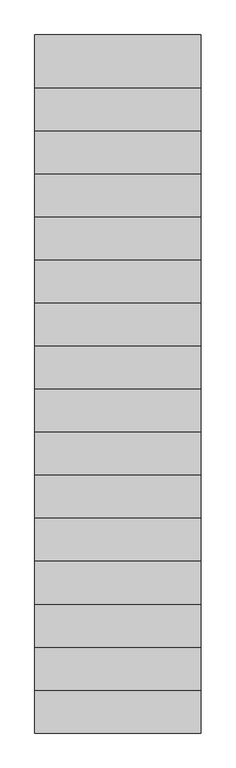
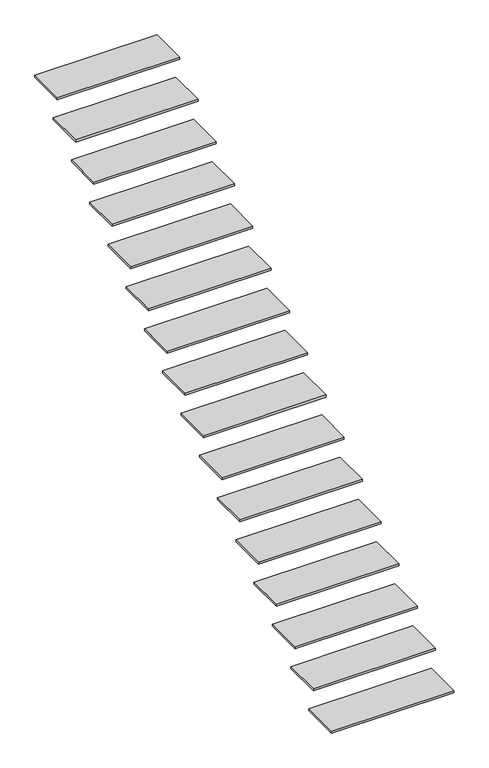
"""IFC4 building model written with IfcOpenShell, lengths in millimetres: stair flight geometry, 24_STR_trede_staal_gegalvaniseerd_rooster_15_neus_50."""

from ifc_helpers import new_model, si_unit, frame, origin, place, context, project, spatial, polyline, outline, extrude, source, transform, mapped, element, save


def stair_flight_6bf14399(model_context):
    return source(origin(), model_context, "Body", "SweptSolid", [
        extrude(outline(polyline([(27349.8089026, -25054.6322236), (28199.8089026, -25054.6322236), (28199.8089026, -25324.6322236), (27349.8089026, -25324.6322236), (27349.8089026, -25054.6322236)])), frame((0.0, 0.0, 161.4705882), z_axis=(0.0, 0.0, 1.0), x_axis=(1.0, 0.0, 0.0)), (0.0, 0.0, 1.0), 15.0),
        extrude(outline(polyline([(27349.8089026, -24834.6322236), (28199.8089026, -24834.6322236), (28199.8089026, -25104.6322236), (27349.8089026, -25104.6322236), (27349.8089026, -24834.6322236)])), frame((0.0, 0.0, 337.9411765), z_axis=(0.0, 0.0, 1.0), x_axis=(1.0, 0.0, 0.0)), (0.0, 0.0, 1.0), 15.0),
        extrude(outline(polyline([(27349.8089026, -24614.6322236), (28199.8089026, -24614.6322236), (28199.8089026, -24884.6322236), (27349.8089026, -24884.6322236), (27349.8089026, -24614.6322236)])), frame((0.0, 0.0, 514.4117647), z_axis=(0.0, 0.0, 1.0), x_axis=(1.0, 0.0, 0.0)), (0.0, 0.0, 1.0), 15.0),
        extrude(outline(polyline([(27349.8089026, -24394.6322236), (28199.8089026, -24394.6322236), (28199.8089026, -24664.6322236), (27349.8089026, -24664.6322236), (27349.8089026, -24394.6322236)])), frame((0.0, 0.0, 690.8823529), z_axis=(0.0, 0.0, 1.0), x_axis=(1.0, 0.0, 0.0)), (0.0, 0.0, 1.0), 15.0),
        extrude(outline(polyline([(27349.8089026, -24174.6322236), (28199.8089026, -24174.6322236), (28199.8089026, -24444.6322236), (27349.8089026, -24444.6322236), (27349.8089026, -24174.6322236)])), frame((0.0, 0.0, 867.3529412), z_axis=(0.0, 0.0, 1.0), x_axis=(1.0, 0.0, 0.0)), (0.0, 0.0, 1.0), 15.0),
        extrude(outline(polyline([(27349.8089026, -23954.6322236), (28199.8089026, -23954.6322236), (28199.8089026, -24224.6322236), (27349.8089026, -24224.6322236), (27349.8089026, -23954.6322236)])), frame((0.0, 0.0, 1043.8235294), z_axis=(0.0, 0.0, 1.0), x_axis=(1.0, 0.0, 0.0)), (0.0, 0.0, 1.0), 15.0),
        extrude(outline(polyline([(27349.8089026, -23734.6322236), (28199.8089026, -23734.6322236), (28199.8089026, -24004.6322236), (27349.8089026, -24004.6322236), (27349.8089026, -23734.6322236)])), frame((0.0, 0.0, 1220.2941176), z_axis=(0.0, 0.0, 1.0), x_axis=(1.0, 0.0, 0.0)), (0.0, 0.0, 1.0), 15.0),
        extrude(outline(polyline([(27349.8089026, -23514.6322236), (28199.8089026, -23514.6322236), (28199.8089026, -23784.6322236), (27349.8089026, -23784.6322236), (27349.8089026, -23514.6322236)])), frame((0.0, 0.0, 1396.7647059), z_axis=(0.0, 0.0, 1.0), x_axis=(1.0, 0.0, 0.0)), (0.0, 0.0, 1.0), 15.0),
        extrude(outline(polyline([(27349.8089026, -23294.6322236), (28199.8089026, -23294.6322236), (28199.8089026, -23564.6322236), (27349.8089026, -23564.6322236), (27349.8089026, -23294.6322236)])), frame((0.0, 0.0, 1573.2352941), z_axis=(0.0, 0.0, 1.0), x_axis=(1.0, 0.0, 0.0)), (0.0, 0.0, 1.0), 15.0),
        extrude(outline(polyline([(27349.8089026, -23074.6322236), (28199.8089026, -23074.6322236), (28199.8089026, -23344.6322236), (27349.8089026, -23344.6322236), (27349.8089026, -23074.6322236)])), frame((0.0, 0.0, 1749.7058824), z_axis=(0.0, 0.0, 1.0), x_axis=(1.0, 0.0, 0.0)), (0.0, 0.0, 1.0), 15.0),
        extrude(outline(polyline([(27349.8089026, -22854.6322236), (28199.8089026, -22854.6322236), (28199.8089026, -23124.6322236), (27349.8089026, -23124.6322236), (27349.8089026, -22854.6322236)])), frame((0.0, 0.0, 1926.1764706), z_axis=(0.0, 0.0, 1.0), x_axis=(1.0, 0.0, 0.0)), (0.0, 0.0, 1.0), 15.0),
        extrude(outline(polyline([(27349.8089026, -22634.6322236), (28199.8089026, -22634.6322236), (28199.8089026, -22904.6322236), (27349.8089026, -22904.6322236), (27349.8089026, -22634.6322236)])), frame((0.0, 0.0, 2102.6470588), z_axis=(0.0, 0.0, 1.0), x_axis=(1.0, 0.0, 0.0)), (0.0, 0.0, 1.0), 15.0),
        extrude(outline(polyline([(27349.8089026, -22414.6322236), (28199.8089026, -22414.6322236), (28199.8089026, -22684.6322236), (27349.8089026, -22684.6322236), (27349.8089026, -22414.6322236)])), frame((0.0, 0.0, 2279.1176471), z_axis=(0.0, 0.0, 1.0), x_axis=(1.0, 0.0, 0.0)), (0.0, 0.0, 1.0), 15.0),
        extrude(outline(polyline([(27349.8089026, -22194.6322236), (28199.8089026, -22194.6322236), (28199.8089026, -22464.6322236), (27349.8089026, -22464.6322236), (27349.8089026, -22194.6322236)])), frame((0.0, 0.0, 2455.5882353), z_axis=(0.0, 0.0, 1.0), x_axis=(1.0, 0.0, 0.0)), (0.0, 0.0, 1.0), 15.0),
        extrude(outline(polyline([(27349.8089026, -21974.6322236), (28199.8089026, -21974.6322236), (28199.8089026, -22244.6322236), (27349.8089026, -22244.6322236), (27349.8089026, -21974.6322236)])), frame((0.0, 0.0, 2632.0588235), z_axis=(0.0, 0.0, 1.0), x_axis=(1.0, 0.0, 0.0)), (0.0, 0.0, 1.0), 15.0),
        extrude(outline(polyline([(27349.8089026, -21754.6322236), (28199.8089026, -21754.6322236), (28199.8089026, -22024.6322236), (27349.8089026, -22024.6322236), (27349.8089026, -21754.6322236)])), frame((0.0, 0.0, 2808.5294118), z_axis=(0.0, 0.0, 1.0), x_axis=(1.0, 0.0, 0.0)), (0.0, 0.0, 1.0), 15.0),
    ])


if __name__ == "__main__":
    model = new_model("IFC4")
    model_context = context("Model", 3, world=origin())
    ifc_project = project(units=[si_unit("LENGTHUNIT", "METRE", prefix="MILLI")], contexts=[model_context])
    site = spatial("IfcSite", under=ifc_project)
    building = spatial("IfcBuilding", under=site)
    placement = place(None, origin())
    stair_flight_shape = stair_flight_6bf14399(model_context)
    element("IfcStairFlight", 1, ObjectType="24_STR_trede_staal_gegalvaniseerd_rooster_15_neus_50", at=placement, inside=building, context=model_context, shape_type="MappedRepresentation", body=[
        mapped(stair_flight_shape, transform((0.0, 0.0, 0.0), x_axis=(1.0, 0.0, 0.0), y_axis=(0.0, 1.0, 0.0), z_axis=(0.0, 0.0, 1.0))),
    ])
    save(model, "model.ifc")
